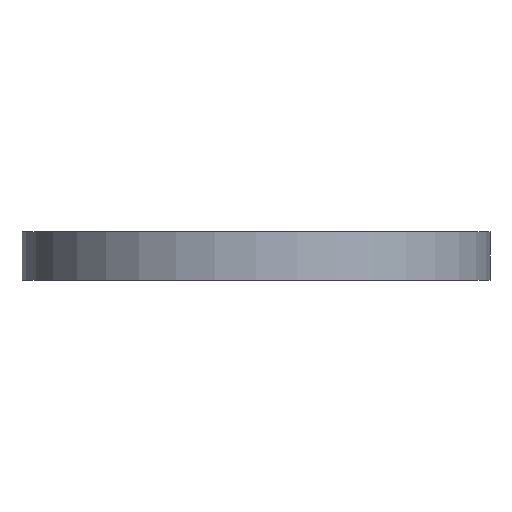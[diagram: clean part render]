
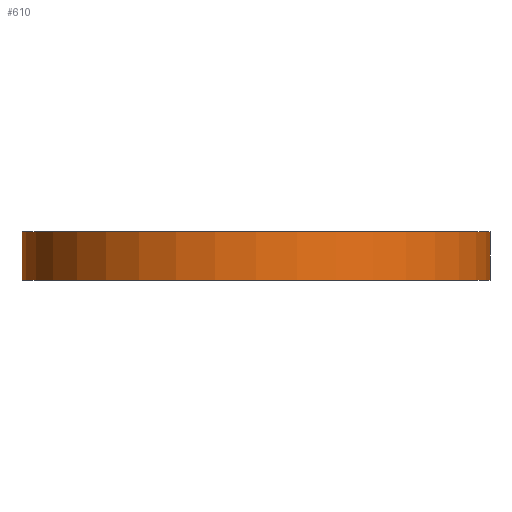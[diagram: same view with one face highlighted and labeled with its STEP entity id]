
A CAD part, front view. The second image highlights one B-rep face of the part: STEP entity #610.
In plain terms, the highlighted cylindrical face has radius 135 mm (diameter 270 mm), a partial arc.
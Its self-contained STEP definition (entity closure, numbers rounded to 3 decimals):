
#18 = DIRECTION ( 'NONE',  ( 0., 0., -1. ) ) ;
#36 = DIRECTION ( 'NONE',  ( 0., 0., 1. ) ) ;
#109 = CARTESIAN_POINT ( 'NONE',  ( 135., 0., 0. ) ) ;
#133 = LINE ( 'NONE', #397, #494 ) ;
#170 = DIRECTION ( 'NONE',  ( 0., 0., 1. ) ) ;
#210 = DIRECTION ( 'NONE',  ( 0., 0., 1. ) ) ;
#215 = VECTOR ( 'NONE', #170, 1000. ) ;
#223 = VERTEX_POINT ( 'NONE', #465 ) ;
#266 = AXIS2_PLACEMENT_3D ( 'NONE', #761, #210, #472 ) ;
#273 = FACE_OUTER_BOUND ( 'NONE', #638, .T. ) ;
#281 = DIRECTION ( 'NONE',  ( -1., 0., 0. ) ) ;
#296 = EDGE_CURVE ( 'NONE', #223, #771, #302, .T. ) ;
#300 = DIRECTION ( 'NONE',  ( 1., 0., 0. ) ) ;
#302 = CIRCLE ( 'NONE', #325, 135. ) ;
#325 = AXIS2_PLACEMENT_3D ( 'NONE', #618, #36, #300 ) ;
#341 = AXIS2_PLACEMENT_3D ( 'NONE', #603, #18, #281 ) ;
#389 = CARTESIAN_POINT ( 'NONE',  ( -135., 0., -28. ) ) ;
#397 = CARTESIAN_POINT ( 'NONE',  ( 135., 0., -78. ) ) ;
#415 = VERTEX_POINT ( 'NONE', #389 ) ;
#425 = EDGE_CURVE ( 'NONE', #766, #771, #133, .T. ) ;
#465 = CARTESIAN_POINT ( 'NONE',  ( -135., 0., 0. ) ) ;
#472 = DIRECTION ( 'NONE',  ( 1., 0., 0. ) ) ;
#493 = LINE ( 'NONE', #730, #215 ) ;
#494 = VECTOR ( 'NONE', #646, 1000. ) ;
#495 = ORIENTED_EDGE ( 'NONE', *, *, #712, .F. ) ;
#511 = ORIENTED_EDGE ( 'NONE', *, *, #425, .T. ) ;
#528 = CYLINDRICAL_SURFACE ( 'NONE', #266, 135. ) ;
#603 = CARTESIAN_POINT ( 'NONE',  ( 0., 0., -28. ) ) ;
#610 = ADVANCED_FACE ( 'NONE', ( #273 ), #528, .T. ) ;
#618 = CARTESIAN_POINT ( 'NONE',  ( 0., 0., 0. ) ) ;
#638 = EDGE_LOOP ( 'NONE', ( #495, #762, #511, #775 ) ) ;
#646 = DIRECTION ( 'NONE',  ( 0., 0., 1. ) ) ;
#663 = EDGE_CURVE ( 'NONE', #766, #415, #683, .T. ) ;
#682 = CARTESIAN_POINT ( 'NONE',  ( 135., 0., -28. ) ) ;
#683 = CIRCLE ( 'NONE', #341, 135. ) ;
#712 = EDGE_CURVE ( 'NONE', #415, #223, #493, .T. ) ;
#730 = CARTESIAN_POINT ( 'NONE',  ( -135., 0., -78. ) ) ;
#761 = CARTESIAN_POINT ( 'NONE',  ( 0., 0., -78. ) ) ;
#762 = ORIENTED_EDGE ( 'NONE', *, *, #663, .F. ) ;
#766 = VERTEX_POINT ( 'NONE', #682 ) ;
#771 = VERTEX_POINT ( 'NONE', #109 ) ;
#775 = ORIENTED_EDGE ( 'NONE', *, *, #296, .F. ) ;
